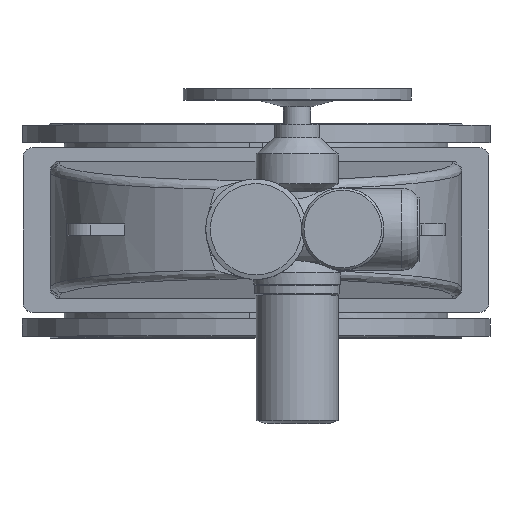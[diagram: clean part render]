
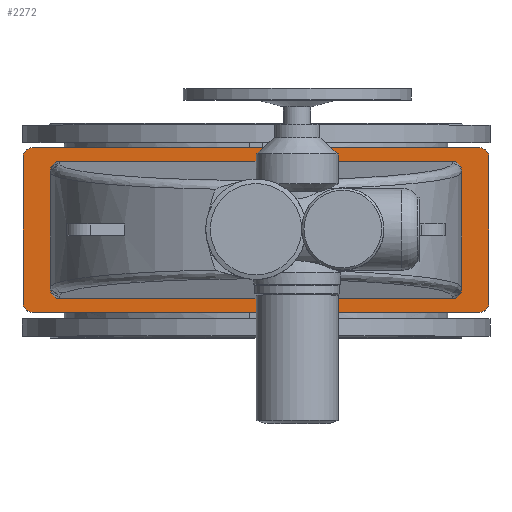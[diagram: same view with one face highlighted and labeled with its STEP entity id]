
A CAD part, top view. The second image highlights one B-rep face of the part: STEP entity #2272.
In plain terms, the highlighted planar face has unit normal (0, 0, 1).
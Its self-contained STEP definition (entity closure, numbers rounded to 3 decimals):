
#2272=ADVANCED_FACE('',(#7554,#7556),#7558,.T.);
#7554=FACE_BOUND('',#7555,.T.);
#7555=EDGE_LOOP('',(#10288,#10289,#10290,#10291,#10292,#10293,#10294,#10295));
#7556=FACE_BOUND('',#7557,.T.);
#7557=EDGE_LOOP('',(#10296,#10297,#10298,#10299,#10300,#10301,#10302,#10303));
#7558=PLANE('',#7559);
#7559=AXIS2_PLACEMENT_3D('',#7560,#7561,#7562);
#7560=CARTESIAN_POINT('',(0.,0.,936.));
#7561=DIRECTION('',(0.,-0.,1.));
#7562=DIRECTION('',(0.,1.,0.));
#10288=ORIENTED_EDGE('',*,*,#11368,.F.);
#10289=ORIENTED_EDGE('',*,*,#11381,.T.);
#10290=ORIENTED_EDGE('',*,*,#11380,.F.);
#10291=ORIENTED_EDGE('',*,*,#11378,.T.);
#10292=ORIENTED_EDGE('',*,*,#11376,.F.);
#10293=ORIENTED_EDGE('',*,*,#11374,.T.);
#10294=ORIENTED_EDGE('',*,*,#11372,.F.);
#10295=ORIENTED_EDGE('',*,*,#11369,.T.);
#10296=ORIENTED_EDGE('',*,*,#11382,.F.);
#10297=ORIENTED_EDGE('',*,*,#11383,.F.);
#10298=ORIENTED_EDGE('',*,*,#11384,.F.);
#10299=ORIENTED_EDGE('',*,*,#11385,.F.);
#10300=ORIENTED_EDGE('',*,*,#11386,.F.);
#10301=ORIENTED_EDGE('',*,*,#11387,.F.);
#10302=ORIENTED_EDGE('',*,*,#11388,.F.);
#10303=ORIENTED_EDGE('',*,*,#11389,.F.);
#11368=EDGE_CURVE('',#12594,#12592,#12596,.F.);
#11369=EDGE_CURVE('',#12597,#12592,#12598,.T.);
#11372=EDGE_CURVE('',#12597,#12600,#12602,.F.);
#11374=EDGE_CURVE('',#12603,#12600,#12605,.T.);
#11376=EDGE_CURVE('',#12603,#12606,#12608,.F.);
#11378=EDGE_CURVE('',#12609,#12606,#12611,.T.);
#11380=EDGE_CURVE('',#12609,#12612,#12614,.F.);
#11381=EDGE_CURVE('',#12594,#12612,#12615,.T.);
#11382=EDGE_CURVE('',#12616,#12617,#12618,.F.);
#11383=EDGE_CURVE('',#12619,#12616,#12620,.T.);
#11384=EDGE_CURVE('',#12621,#12619,#12622,.T.);
#11385=EDGE_CURVE('',#12623,#12621,#12624,.T.);
#11386=EDGE_CURVE('',#12625,#12623,#12626,.F.);
#11387=EDGE_CURVE('',#12627,#12625,#12628,.T.);
#11388=EDGE_CURVE('',#12629,#12627,#12630,.T.);
#11389=EDGE_CURVE('',#12617,#12629,#12631,.T.);
#12592=VERTEX_POINT('',#16259);
#12594=VERTEX_POINT('',#16263);
#12596=CIRCLE('',#16267,20.);
#12597=VERTEX_POINT('',#16271);
#12598=LINE('',#16272,#16273);
#12600=VERTEX_POINT('',#16278);
#12602=CIRCLE('',#16282,20.);
#12603=VERTEX_POINT('',#16286);
#12605=LINE('',#16290,#16291);
#12606=VERTEX_POINT('',#16293);
#12608=CIRCLE('',#16297,20.);
#12609=VERTEX_POINT('',#16301);
#12611=LINE('',#16305,#16306);
#12612=VERTEX_POINT('',#16308);
#12614=CIRCLE('',#16312,20.);
#12615=LINE('',#16316,#16317);
#12616=VERTEX_POINT('',#16319);
#12617=VERTEX_POINT('',#16320);
#12618=(BOUNDED_CURVE()B_SPLINE_CURVE(3,
(#16321,#16322,#16323,#16324),
.UNSPECIFIED.,.F.,.F.)B_SPLINE_CURVE_WITH_KNOTS((4,4),
(0.,1.),
.UNSPECIFIED.)CURVE()GEOMETRIC_REPRESENTATION_ITEM()RATIONAL_B_SPLINE_CURVE((1.,
0.805,0.805,1.))REPRESENTATION_ITEM(''));
#12619=VERTEX_POINT('',#16325);
#12620=LINE('',#16326,#16327);
#12621=VERTEX_POINT('',#16329);
#12622=(BOUNDED_CURVE()B_SPLINE_CURVE(3,
(#16330,#16331,#16332,#16333),
.UNSPECIFIED.,.F.,.F.)B_SPLINE_CURVE_WITH_KNOTS((4,4),
(0.,1.),
.UNSPECIFIED.)CURVE()GEOMETRIC_REPRESENTATION_ITEM()RATIONAL_B_SPLINE_CURVE((1.,
0.805,0.805,1.))REPRESENTATION_ITEM(''));
#12623=VERTEX_POINT('',#16334);
#12624=LINE('',#16335,#16336);
#12625=VERTEX_POINT('',#16338);
#12626=(BOUNDED_CURVE()B_SPLINE_CURVE(3,
(#16339,#16340,#16341,#16342),
.UNSPECIFIED.,.F.,.F.)B_SPLINE_CURVE_WITH_KNOTS((4,4),
(0.,1.),
.UNSPECIFIED.)CURVE()GEOMETRIC_REPRESENTATION_ITEM()RATIONAL_B_SPLINE_CURVE((1.,
0.805,0.805,1.))REPRESENTATION_ITEM(''));
#12627=VERTEX_POINT('',#16343);
#12628=LINE('',#16344,#16345);
#12629=VERTEX_POINT('',#16347);
#12630=(BOUNDED_CURVE()B_SPLINE_CURVE(3,
(#16348,#16349,#16350,#16351),
.UNSPECIFIED.,.F.,.F.)B_SPLINE_CURVE_WITH_KNOTS((4,4),
(0.,1.),
.UNSPECIFIED.)CURVE()GEOMETRIC_REPRESENTATION_ITEM()RATIONAL_B_SPLINE_CURVE((1.,
0.805,0.805,1.))REPRESENTATION_ITEM(''));
#12631=LINE('',#16352,#16353);
#16259=CARTESIAN_POINT('',(-510.,-160.,936.));
#16263=CARTESIAN_POINT('',(-490.,-180.,936.));
#16267=AXIS2_PLACEMENT_3D('',#16268,#16269,#16270);
#16268=CARTESIAN_POINT('',(-490.,-160.,936.));
#16269=DIRECTION('',(0.,-0.,1.));
#16270=DIRECTION('',(-1.,0.,0.));
#16271=CARTESIAN_POINT('',(-510.,160.,936.));
#16272=CARTESIAN_POINT('',(-510.,160.,936.));
#16273=VECTOR('',#16274,1.);
#16274=DIRECTION('',(0.,-1.,0.));
#16278=CARTESIAN_POINT('',(-490.,180.,936.));
#16282=AXIS2_PLACEMENT_3D('',#16283,#16284,#16285);
#16283=CARTESIAN_POINT('',(-490.,160.,936.));
#16284=DIRECTION('',(0.,-0.,1.));
#16285=DIRECTION('',(0.,1.,0.));
#16286=CARTESIAN_POINT('',(490.,180.,936.));
#16290=CARTESIAN_POINT('',(490.,180.,936.));
#16291=VECTOR('',#16292,1.);
#16292=DIRECTION('',(-1.,0.,0.));
#16293=CARTESIAN_POINT('',(510.,160.,936.));
#16297=AXIS2_PLACEMENT_3D('',#16298,#16299,#16300);
#16298=CARTESIAN_POINT('',(490.,160.,936.));
#16299=DIRECTION('',(0.,-0.,1.));
#16300=DIRECTION('',(1.,0.,0.));
#16301=CARTESIAN_POINT('',(510.,-160.,936.));
#16305=CARTESIAN_POINT('',(510.,-160.,936.));
#16306=VECTOR('',#16307,1.);
#16307=DIRECTION('',(0.,1.,0.));
#16308=CARTESIAN_POINT('',(490.,-180.,936.));
#16312=AXIS2_PLACEMENT_3D('',#16313,#16314,#16315);
#16313=CARTESIAN_POINT('',(490.,-160.,936.));
#16314=DIRECTION('',(0.,-0.,1.));
#16315=DIRECTION('',(0.,-1.,0.));
#16316=CARTESIAN_POINT('',(-490.,-180.,936.));
#16317=VECTOR('',#16318,1.);
#16318=DIRECTION('',(1.,0.,0.));
#16319=CARTESIAN_POINT('',(430.,-150.,936.));
#16320=CARTESIAN_POINT('',(450.,-129.924,936.));
#16321=CARTESIAN_POINT('',(450.,-129.924,936.));
#16322=CARTESIAN_POINT('',(450.,-141.684,936.));
#16323=CARTESIAN_POINT('',(441.716,-150.,936.));
#16324=CARTESIAN_POINT('',(430.,-150.,936.));
#16325=CARTESIAN_POINT('',(-430.,-150.,936.));
#16326=CARTESIAN_POINT('',(-430.,-150.,936.));
#16327=VECTOR('',#16328,1.);
#16328=DIRECTION('',(1.,0.,0.));
#16329=CARTESIAN_POINT('',(-450.,-129.924,936.));
#16330=CARTESIAN_POINT('',(-450.,-129.924,936.));
#16331=CARTESIAN_POINT('',(-450.,-141.684,936.));
#16332=CARTESIAN_POINT('',(-441.716,-150.,936.));
#16333=CARTESIAN_POINT('',(-430.,-150.,936.));
#16334=CARTESIAN_POINT('',(-450.,129.924,936.));
#16335=CARTESIAN_POINT('',(-450.,129.924,936.));
#16336=VECTOR('',#16337,1.);
#16337=DIRECTION('',(0.,-1.,0.));
#16338=CARTESIAN_POINT('',(-430.,150.,936.));
#16339=CARTESIAN_POINT('',(-450.,129.924,936.));
#16340=CARTESIAN_POINT('',(-450.,141.684,936.));
#16341=CARTESIAN_POINT('',(-441.716,150.,936.));
#16342=CARTESIAN_POINT('',(-430.,150.,936.));
#16343=CARTESIAN_POINT('',(430.,150.,936.));
#16344=CARTESIAN_POINT('',(430.,150.,936.));
#16345=VECTOR('',#16346,1.);
#16346=DIRECTION('',(-1.,0.,0.));
#16347=CARTESIAN_POINT('',(450.,129.924,936.));
#16348=CARTESIAN_POINT('',(450.,129.924,936.));
#16349=CARTESIAN_POINT('',(450.,141.684,936.));
#16350=CARTESIAN_POINT('',(441.716,150.,936.));
#16351=CARTESIAN_POINT('',(430.,150.,936.));
#16352=CARTESIAN_POINT('',(450.,-129.924,936.));
#16353=VECTOR('',#16354,1.);
#16354=DIRECTION('',(0.,1.,0.));
